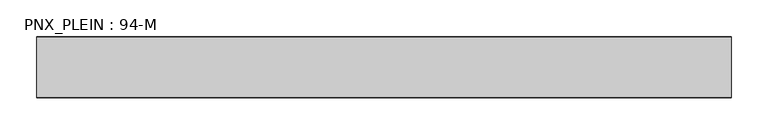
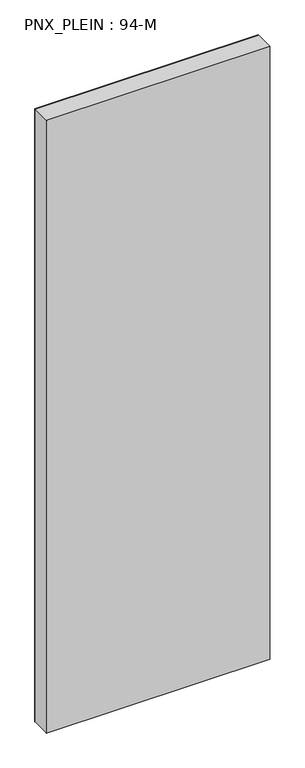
"""IFC4 building model written with IfcOpenShell, lengths in millimetres: plate geometry, PNX_PLEIN : 94-M."""

from ifc_helpers import new_model, si_unit, origin, origin_with_axes, place, context, project, spatial, polyline, outline, extrude, source, transform, mapped, element, save


def pnx_plein_94_m_92e32ffe(model_context):
    return source(origin(), model_context, "Body", "SweptSolid", [
        extrude(outline(polyline([(472.3, -40.5), (-472.3, -40.5), (-472.3, 40.5), (472.3, 40.5), (472.3, -40.5)])), origin_with_axes(), (0.0, 0.0, 1.0), 2739.0),
        extrude(outline(polyline([(472.3, -41.5), (-472.3, -41.5), (-472.3, -40.5), (472.3, -40.5), (472.3, -41.5)])), origin_with_axes(), (0.0, 0.0, 1.0), 2739.0),
        extrude(outline(polyline([(472.3, 40.5), (-472.3, 40.5), (-472.3, 41.5), (472.3, 41.5), (472.3, 40.5)])), origin_with_axes(), (0.0, 0.0, 1.0), 2739.0),
    ])


if __name__ == "__main__":
    model = new_model("IFC4")
    model_context = context("Model", 3, world=origin())
    ifc_project = project(units=[si_unit("LENGTHUNIT", "METRE", prefix="MILLI")], contexts=[model_context])
    site = spatial("IfcSite", under=ifc_project)
    building = spatial("IfcBuilding", under=site)
    placement = place(None, origin())
    pnx_plein_94_m_shape = pnx_plein_94_m_92e32ffe(model_context)
    element("IfcPlate", 1, ObjectType="PNX_PLEIN : 94-M", at=placement, inside=building, context=model_context, shape_type="MappedRepresentation", body=[
        mapped(pnx_plein_94_m_shape, transform((0.0, 0.0, 0.0), x_axis=(1.0, 0.0, 0.0), y_axis=(0.0, 1.0, 0.0), z_axis=(0.0, 0.0, 1.0))),
    ])
    save(model, "model.ifc")
